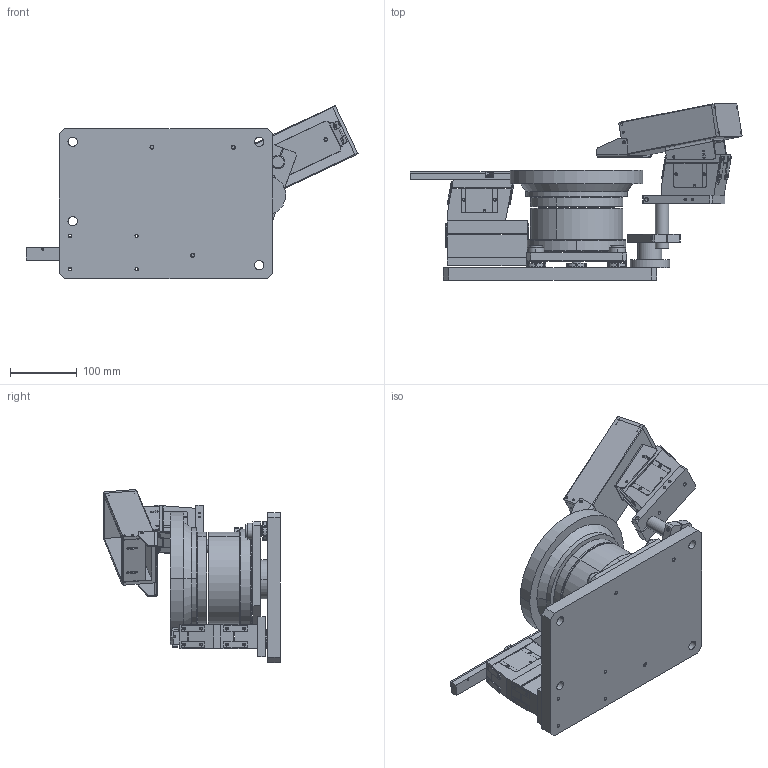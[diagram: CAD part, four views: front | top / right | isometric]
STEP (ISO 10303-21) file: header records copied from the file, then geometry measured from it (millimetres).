
FILE_DESCRIPTION((''),'2;1');
FILE_NAME('G_ASM','2021-09-02T11:12:05',('Administrator'),(''),'CREO PARAMETRIC BY PTC INC, 2020154','CREO PARAMETRIC BY PTC INC, 2020154','');
FILE_SCHEMA(('CONFIG_CONTROL_DESIGN'));
Length unit declared in the file: millimetre
Products named in the file (42): G1; BU140-1; BU140-2; BU140-3; BU140-4; BU140-20; BU140-21; BU140-22; BU140_5_ASM; BU140_ASM; B200; LT1; LT2; LT3; DS-P1; LT_ASM; LF100C-1; LF100C-2; SPRING35-9; LF100C-3; EM35-15-24_5; EM35-15-I; LF100C-15; LF100C_V_ASM; LF100C-10; LF100C-11; LF100C-12; LF100C_B_ASM; LF100C_ASM; HP100-6; HP100-5; HP100-2; HP100-1; HP100-10; HP100B-11; HP100B-15; HP100B-12; HP100B-16; HP100B-13; HP100B_1_ASM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
Assembly tree (54 placements, depth 4):
  G_ASM
    G1
    BU140_ASM
      BU140-1
      BU140-2
      BU140-3
      BU140-4
      BU140_5_ASM  x3
        BU140-20
        BU140-21
        BU140-22
    B200
    LT_ASM
      LT1
      LT2
      LT3
      DS-P1  x2
    LF100C_ASM
      LF100C_V_ASM
        LF100C-1
        LF100C-2
        SPRING35-9  x4
        LF100C-3  x2
        EM35-15-24_5
        EM35-15-I
        LF100C-15  x2
      LF100C_B_ASM
        LF100C-10
        LF100C-11
        LF100C-12
        SPRING35-9  x4
    HP100B_ASM
      HP100-6
      HP100-5
      HP100-2
      HP100-1
      LF100C_V_ASM
        LF100C-1
        LF100C-2
        SPRING35-9  x4
        LF100C-3  x2
        EM35-15-24_5
        EM35-15-I
        LF100C-15  x2
      HP100B_1_ASM
        HP100-10
        HP100B-11
        HP100B-15
        HP100B-12
        HP100B-16
        HP100B-13
Bounding box: 498.04 x 264.87 x 259.54 mm (x, y, z)
Volume: 4263729.2 mm3; surface area: 819702.7 mm2
Topology: 61 solids, 164 shells, 1551 faces, 3840 edges, 2494 vertices
Faces by surface type: cylinder 800, plane 601, cone 150
Entity records: 31419 total; most frequent: DIRECTION 5915, CARTESIAN_POINT 5413, ORIENTED_EDGE 4558, EDGE_CURVE 2433, AXIS2_PLACEMENT_3D 2330, VERTEX_POINT 1616, EDGE_LOOP 1287, VECTOR 1255
